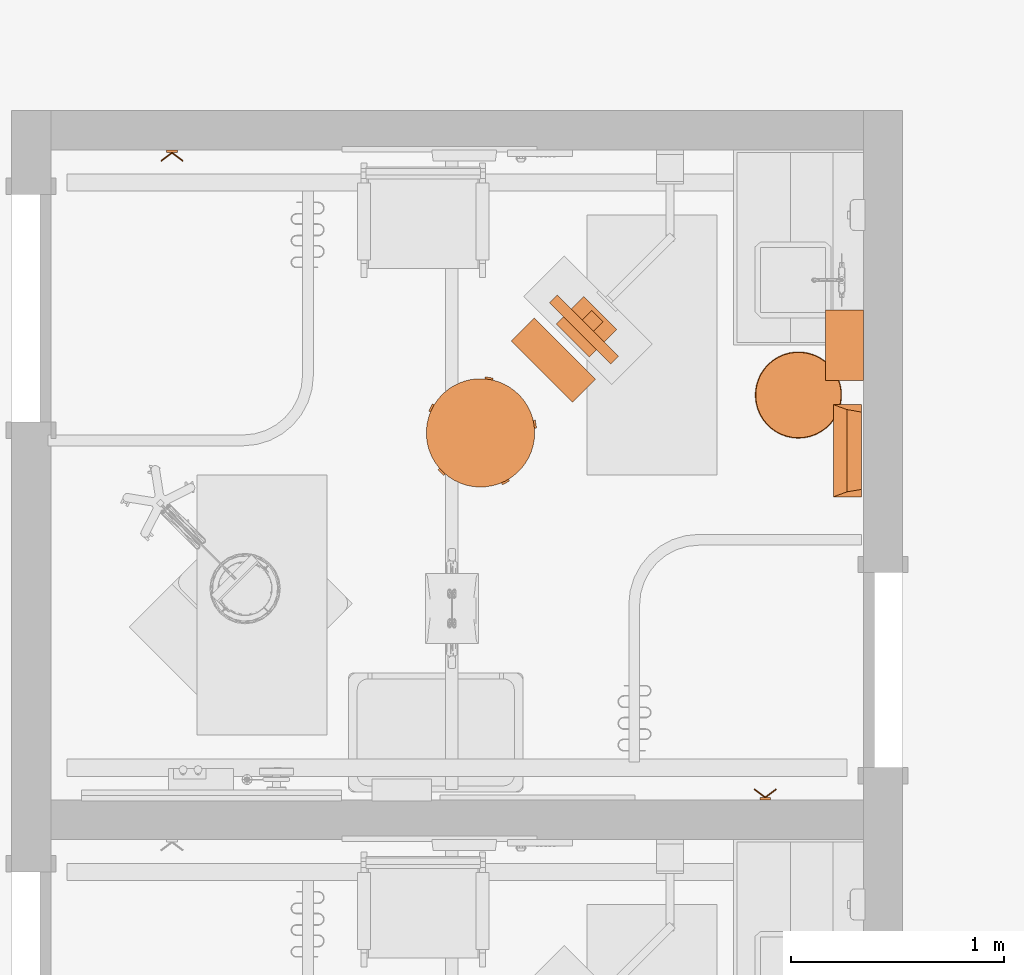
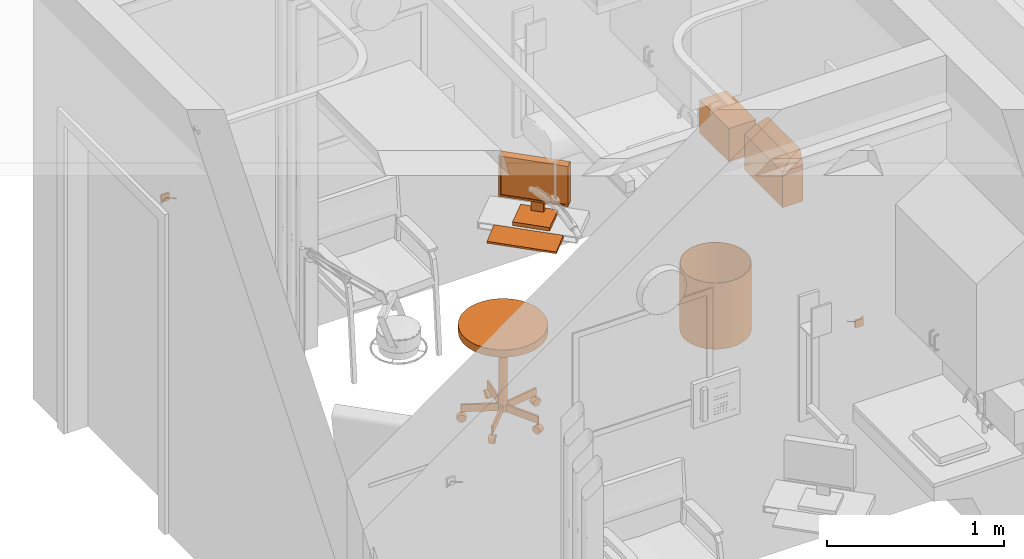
# One storey, part 125 of 142: 7 proxies.
"""IFC2X3 building model written with IfcOpenShell, lengths in feet."""

from ifc_helpers import new_model, entity, si_unit, converted_unit, derived_unit, direction, frame, frame_2d, origin, origin_2d_with_axis, place, context, subcontext, project, spatial, polyline, circle_curve, parameter, trimmed, segment, composite_curve, rectangle, circle, hollow_circle, outline, extrude, faceted_brep, source, transform, mapped, type_object, type_shapes, element, save


model = new_model("IFC2X3")

# Units and contexts
model_context = context("Model", 3, precision=0.0001, world=origin(), true_north=direction((6.12303176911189e-17, 1.0)))
body_context = subcontext(model_context, "Body", "Model", "MODEL_VIEW")
ifc_project = project(units=[converted_unit("LENGTHUNIT", "FOOT", entity("IfcRatioMeasure", 0.3048), si_unit("LENGTHUNIT", "METRE"), dimensions=[1, 0, 0, 0, 0, 0, 0]), converted_unit("AREAUNIT", "SQUARE FOOT", entity("IfcRatioMeasure", 0.09290304), si_unit("AREAUNIT", "SQUARE_METRE"), dimensions=[2, 0, 0, 0, 0, 0, 0]), converted_unit("VOLUMEUNIT", "CUBIC FOOT", entity("IfcRatioMeasure", 0.028316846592), si_unit("VOLUMEUNIT", "CUBIC_METRE"), dimensions=[3, 0, 0, 0, 0, 0, 0]), converted_unit("PLANEANGLEUNIT", "DEGREE", entity("IfcRatioMeasure", 0.0174532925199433), si_unit("PLANEANGLEUNIT", "RADIAN"), dimensions=[0, 0, 0, 0, 0, 0, 0]), si_unit("MASSUNIT", "GRAM", prefix="KILO"), derived_unit("MASSDENSITYUNIT", [(si_unit("MASSUNIT", "GRAM", prefix="KILO"), 1), (si_unit("LENGTHUNIT", "METRE"), -3)]), si_unit("TIMEUNIT", "SECOND"), si_unit("FREQUENCYUNIT", "HERTZ"), si_unit("THERMODYNAMICTEMPERATUREUNIT", "DEGREE_CELSIUS"), derived_unit("THERMALTRANSMITTANCEUNIT", [(si_unit("MASSUNIT", "GRAM", prefix="KILO"), 1), (si_unit("THERMODYNAMICTEMPERATUREUNIT", "KELVIN"), -1), (si_unit("TIMEUNIT", "SECOND"), -3)]), derived_unit("VOLUMETRICFLOWRATEUNIT", [(si_unit("LENGTHUNIT", "METRE"), 3), (si_unit("TIMEUNIT", "SECOND"), -1)]), si_unit("ELECTRICCURRENTUNIT", "AMPERE"), si_unit("ELECTRICVOLTAGEUNIT", "VOLT"), si_unit("POWERUNIT", "WATT"), si_unit("FORCEUNIT", "NEWTON"), si_unit("ILLUMINANCEUNIT", "LUX"), si_unit("LUMINOUSFLUXUNIT", "LUMEN"), si_unit("LUMINOUSINTENSITYUNIT", "CANDELA"), derived_unit("USERDEFINED", [(si_unit("MASSUNIT", "GRAM", prefix="KILO"), -1), (si_unit("LENGTHUNIT", "METRE"), -2), (si_unit("TIMEUNIT", "SECOND"), 3), (si_unit("LUMINOUSFLUXUNIT", "LUMEN"), 1)]), derived_unit("LINEARVELOCITYUNIT", [(si_unit("LENGTHUNIT", "METRE"), 1), (si_unit("TIMEUNIT", "SECOND"), -1)]), si_unit("PRESSUREUNIT", "PASCAL"), derived_unit("USERDEFINED", [(si_unit("LENGTHUNIT", "METRE"), -2), (si_unit("MASSUNIT", "GRAM", prefix="KILO"), 1), (si_unit("TIMEUNIT", "SECOND"), -2)])], contexts=[model_context])

# Site, building, storey, space
site_placement = place(None, origin())
site = spatial("IfcSite", under=ifc_project, at=site_placement, Name="Default", CompositionType="ELEMENT")
building_placement = place(site_placement, origin())
building = spatial("IfcBuilding", under=site, at=building_placement, Name="OUTPATIENT / PACT CLINIC (Ch. 265)", CompositionType="ELEMENT")
storey_placement = place(building_placement, origin())
storey = spatial("IfcBuildingStorey", under=building, at=storey_placement, Name="LEVEL 1", CompositionType="ELEMENT", Elevation=0.0)
space_placement = place(storey_placement, origin())
space = spatial("IfcSpace", under=storey, at=space_placement, Name="EXPA01", CompositionType="ELEMENT", InteriorOrExteriorSpace="INTERNAL")

# Proxies
building_element_proxy_type_1 = type_object("IfcBuildingElementProxyType", Name="F2000 - Basket, Wastepaper", PredefinedType="NOTDEFINED")
shared_shape_1 = source(origin(), body_context, "Body", "SweptSolid", [
    extrude(circle(Radius=0.666666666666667, at=frame_2d((0.0, -1.07702971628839e-15), x_axis=(1.0, 0.0))), origin(), (0.0, 0.0, 1.0), 0.0104166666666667),
    extrude(hollow_circle(Radius=0.666666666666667, WallThickness=0.0104166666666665, at=frame_2d((0.0, -1.07702971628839e-15), x_axis=(1.0, 0.0))), frame((0.0, 0.0, 0.0104166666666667)), (0.0, 0.0, 1.0), 1.48958333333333),
])
type_shapes(building_element_proxy_type_1, [shared_shape_1])
proxy_1_placement = place(space_placement, frame((402.463309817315, -880.189522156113, 0.0), z_axis=(0.0, 0.0, 1.0), x_axis=(0.0, -1.0, 0.0)))
element("IfcBuildingElementProxy", 1, at=proxy_1_placement, inside=space, type_object=building_element_proxy_type_1, Name="F2000 - Basket, Wastepaper:F2000 - Basket, Wastepaper", ObjectType="F2000 - Basket, Wastepaper", context=body_context, shape_type="MappedRepresentation", body=[
    mapped(shared_shape_1, transform((0.0, 0.0, 0.0), scale=1.0)),
])
building_element_proxy_type_2 = type_object("IfcBuildingElementProxyType", Name="A5108 - Waste Disposal Unit, Sharps 17\"x 13\"", PredefinedType="NOTDEFINED")
shared_shape_2 = source(origin(), body_context, "Body", "Brep", [
    faceted_brep([(0.70833333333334, 0.0, 0.0), (-0.708333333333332, 0.0, 0.0), (-0.708333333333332, 0.437500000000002, 0.0), (0.70833333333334, 0.437500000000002, 0.0), (0.70833333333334, 0.437500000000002, 0.810989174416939), (0.70833333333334, 0.0025667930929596, 0.810989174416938), (0.70833333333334, 0.0, 0.808422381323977), (-0.708333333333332, 0.437500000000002, 0.810989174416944), (-0.594042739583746, 0.437500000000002, 1.125), (0.594042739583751, 0.437500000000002, 1.125), (-0.708333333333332, 0.0, 0.808422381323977), (-0.708333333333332, 0.00256679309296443, 0.810989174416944), (0.632497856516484, 0.210923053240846, 1.01934543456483), (-0.632497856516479, 0.210923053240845, 1.01934543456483)], [[[0, 1, 2, 3]], [[0, 3, 4, 5, 6]], [[3, 2, 7, 8, 9, 4]], [[2, 1, 10, 11, 7]], [[1, 0, 6, 10]], [[10, 6, 5, 12, 13, 11]], [[12, 9, 8, 13]], [[5, 4, 9, 12]], [[8, 7, 11, 13]]]),
])
type_shapes(building_element_proxy_type_2, [shared_shape_2])
proxy_2_placement = place(storey_placement, frame((402.999768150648, -881.045519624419, 3.5), z_axis=(0.0, 0.0, 1.0), x_axis=(0.0, -1.0, 0.0)))
element("IfcBuildingElementProxy", 2, at=proxy_2_placement, inside=storey, type_object=building_element_proxy_type_2, Name="A5108 - Waste Disposal Unit, Sharps1:A5108 - Waste Disposal Unit, Sharps 17\"x 13\"", ObjectType="A5108 - Waste Disposal Unit, Sharps 17\"x 13\"", context=body_context, shape_type="MappedRepresentation", body=[
    mapped(shared_shape_2, transform((0.0, 0.0, 0.0), scale=1.0)),
])
building_element_proxy_type_3 = type_object("IfcBuildingElementProxyType", Name="A5080 - Dispenser, Paper Towel", PredefinedType="NOTDEFINED")
shared_shape_3 = source(origin(), body_context, "Body", "SweptSolid", [
    extrude(rectangle(XDim=0.58333333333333, YDim=1.08333333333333, at=frame_2d((9.99200722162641e-16, 0.0), x_axis=(1.0, 0.0))), frame((0.0, -0.291666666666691, 0.0), z_axis=(0.0, 0.0, 1.0), x_axis=(0.0, 1.0, 0.0)), (0.0, 0.0, 1.0), 0.75),
])
type_shapes(building_element_proxy_type_3, [shared_shape_3])
proxy_3_placement = place(space_placement, frame((403.463309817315, -879.420519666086, 3.5), z_axis=(0.0, 0.0, 1.0), x_axis=(0.0, -1.0, 0.0)))
element("IfcBuildingElementProxy", 3, at=proxy_3_placement, inside=space, type_object=building_element_proxy_type_3, Name="A5080 - Dispenser, Paper Towel:A5080 - Dispenser, Paper Towel", ObjectType="A5080 - Dispenser, Paper Towel", context=body_context, shape_type="MappedRepresentation", body=[
    mapped(shared_shape_3, transform((0.0, 0.0, 0.0), scale=1.0)),
])
building_element_proxy_type_4 = type_object("IfcBuildingElementProxyType", Name="M1801 - Computer with Flat Panel Monitor", PredefinedType="NOTDEFINED")
shared_shape_4 = source(origin(), body_context, "Body", "Brep", [
    faceted_brep([(0.666666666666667, -0.5625, 0.0), (0.666666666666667, -0.0624999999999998, 0.0), (0.666666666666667, -0.0624999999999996, 0.0833333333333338), (0.666666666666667, -0.5625, 0.0416666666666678), (-0.666666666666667, -0.5625, 0.0), (-0.666666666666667, -0.5625, 0.0416666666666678), (-0.666666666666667, -0.0624999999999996, 0.0833333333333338), (-0.666666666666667, -0.0624999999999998, 0.0)], [[[0, 1, 2, 3]], [[4, 5, 6, 7]], [[1, 0, 4, 7]], [[2, 1, 7, 6]], [[3, 2, 6, 5]], [[0, 3, 5, 4]]]),
    faceted_brep([(0.666666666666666, 0.437223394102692, 1.41666666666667), (-0.666666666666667, 0.437223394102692, 1.41666666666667), (-0.666666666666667, 0.271109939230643, 1.41666666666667), (0.666666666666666, 0.271109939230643, 1.41666666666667), (0.666666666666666, 0.437223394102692, 0.500000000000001), (0.666666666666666, 0.271109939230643, 0.500000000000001), (-0.666666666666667, 0.271109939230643, 0.500000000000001), (-0.666666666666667, 0.437223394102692, 0.500000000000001), (-0.625, 0.271109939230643, 1.375), (0.625, 0.271109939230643, 1.375), (0.625, 0.271109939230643, 0.541666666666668), (-0.625, 0.271109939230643, 0.541666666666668), (0.625, 0.286812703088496, 1.375), (-0.625, 0.286812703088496, 1.375), (0.625, 0.286812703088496, 0.541666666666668), (-0.625, 0.286812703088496, 0.541666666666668)], [[[0, 1, 2, 3]], [[4, 5, 6, 7]], [[1, 0, 4, 7]], [[2, 1, 7, 6]], [[3, 2, 6, 5], [8, 9, 10, 11]], [[0, 3, 5, 4]], [[12, 9, 8, 13]], [[14, 15, 11, 10]], [[12, 13, 15, 14]], [[13, 8, 11, 15]], [[9, 12, 14, 10]]]),
    faceted_brep([(0.358011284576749, 0.111770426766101, 0.0833333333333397), (0.358011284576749, 0.111770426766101, 0.0), (0.358011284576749, 0.708333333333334, 0.0), (0.358011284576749, 0.708333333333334, 0.0833333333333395), (-0.358011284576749, 0.708333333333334, 0.0833333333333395), (-0.358011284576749, 0.708333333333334, 0.0), (-0.358011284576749, 0.111770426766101, 0.0), (-0.358011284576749, 0.111770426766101, 0.0833333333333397), (0.12128795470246, 0.645556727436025, 0.104166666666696), (0.12128795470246, 0.645556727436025, 0.0833333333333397), (-0.12128795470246, 0.645556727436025, 0.0833333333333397), (-0.12128795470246, 0.645556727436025, 0.104166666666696), (0.12128795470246, 0.645556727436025, 0.958333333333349), (-0.12128795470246, 0.645556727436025, 0.958333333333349), (0.12128795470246, 0.437223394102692, 0.958333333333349), (-0.12128795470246, 0.437223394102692, 0.958333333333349), (0.12128795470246, 0.437223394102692, 0.791666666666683), (-0.12128795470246, 0.437223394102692, 0.791666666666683), (0.12128795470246, 0.562223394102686, 0.791666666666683), (-0.12128795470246, 0.562223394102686, 0.791666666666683), (0.12128795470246, 0.562223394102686, 0.0833333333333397), (-0.12128795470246, 0.562223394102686, 0.0833333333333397)], [[[0, 1, 2, 3]], [[4, 5, 6, 7]], [[8, 9, 10, 11]], [[12, 8, 11, 13]], [[14, 12, 13, 15]], [[16, 14, 15, 17]], [[18, 16, 17, 19]], [[20, 18, 19, 21]], [[0, 3, 4, 7], [9, 20, 21, 10]], [[1, 0, 7, 6]], [[2, 1, 6, 5]], [[3, 2, 5, 4]], [[20, 9, 8, 12, 14, 16, 18]], [[10, 21, 19, 17, 15, 13, 11]]]),
])
type_shapes(building_element_proxy_type_4, [shared_shape_4])
proxy_4_placement = place(space_placement, frame((398.914565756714, -879.429680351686, 2.9791666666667), z_axis=(0.0, 0.0, 1.0), x_axis=(0.707106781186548, -0.707106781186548, 0.0)))
element("IfcBuildingElementProxy", 4, at=proxy_4_placement, inside=space, type_object=building_element_proxy_type_4, Name="M1801 - Computer with Flat Panel Monitor1:M1801 - Computer with Flat Panel Monitor", ObjectType="M1801 - Computer with Flat Panel Monitor", context=body_context, shape_type="MappedRepresentation", body=[
    mapped(shared_shape_4, transform((0.0, 0.0, 0.0), scale=1.0)),
])
building_element_proxy_type_5 = type_object("IfcBuildingElementProxyType", Name="F0340 - Stool, Self Adjusting", PredefinedType="NOTDEFINED")
shared_shape_5 = source(origin(), body_context, "Body", "SweptSolid", [
    extrude(circle(Radius=0.084518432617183, at=frame_2d((0.0, -1.38777878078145e-16), x_axis=(1.0, 0.0))), frame((0.717011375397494, 0.287734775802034, 0.0845184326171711), z_axis=(0.309016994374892, -0.951056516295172, 0.0), x_axis=(-0.951056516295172, -0.309016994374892, 0.0)), (0.0, 0.0, 1.0), 0.104166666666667),
    extrude(outline(composite_curve([segment(polyline([(-0.0925649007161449, 0.0), (0.0925649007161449, 0.0)]), True, "CONTINUOUS"), segment(trimmed(circle_curve(origin_2d_with_axis(), 0.0925649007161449), [parameter(2.03555499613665e-13)], [parameter(180.0)], True, "PARAMETER"), True, "CONTINUOUS")], self_intersect=False)), frame((0.752419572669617, 0.178759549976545, 0.0845184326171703), z_axis=(-0.309016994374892, 0.951056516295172, 0.0), x_axis=(-0.951056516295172, -0.309016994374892, 0.0)), (0.0, 0.0, 1.0), 0.125),
    extrude(circle(Radius=0.0115130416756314, at=frame_2d((7.9106571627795e-18, 1.14165428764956e-16), x_axis=(1.0, 0.0))), frame((0.73310678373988, 0.238198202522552, 0.177083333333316), z_axis=(0.0, 0.0, 1.0), x_axis=(0.309016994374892, -0.951056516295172, 0.0)), (0.0, 0.0, 1.0), 0.0442708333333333),
    extrude(rectangle(XDim=0.0416641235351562, YDim=0.7059128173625, at=frame_2d((1.38777878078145e-17, 0.0), x_axis=(1.0, 0.0))), frame((0.412570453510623, 0.134049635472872, 0.221354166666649), z_axis=(0.0, 0.0, 1.0), x_axis=(-0.309016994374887, 0.951056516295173, 0.0)), (0.0, 0.0, 1.0), 0.166666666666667),
    extrude(circle(Radius=0.084518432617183, at=frame_2d((0.0, -3.7470027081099e-16), x_axis=(1.0, 0.0))), frame((0.410948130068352, -0.654231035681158, 0.0845184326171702), z_axis=(0.809016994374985, 0.587785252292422, 0.0), x_axis=(-0.587785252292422, 0.809016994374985, 0.0)), (0.0, 0.0, 1.0), 0.104166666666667),
    extrude(outline(composite_curve([segment(polyline([(-0.0925649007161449, 0.0), (0.0925649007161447, 0.0)]), True, "CONTINUOUS"), segment(trimmed(circle_curve(origin_2d_with_axis(), 0.0925649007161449), [parameter(2.03555499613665e-13)], [parameter(180.0)], True, "PARAMETER"), True, "CONTINUOUS")], self_intersect=False)), frame((0.402520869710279, -0.660353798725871, 0.0845184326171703), z_axis=(0.809016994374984, 0.587785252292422, 0.0), x_axis=(-0.587785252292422, 0.809016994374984, 0.0)), (0.0, 0.0, 1.0), 0.125),
    extrude(circle(Radius=0.0115130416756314, at=origin_2d_with_axis()), frame((0.453082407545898, -0.623618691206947, 0.177083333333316), z_axis=(0.0, 0.0, 1.0), x_axis=(-0.809016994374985, -0.587785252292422, 0.0)), (0.0, 0.0, 1.0), 0.0442708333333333),
    extrude(rectangle(XDim=0.0416641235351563, YDim=0.705912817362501, at=frame_2d((0.0, -1.38777878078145e-16), x_axis=(1.0, 0.0))), frame((0.254980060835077, -0.350954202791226, 0.221354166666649), z_axis=(0.0, 0.0, 1.0), x_axis=(0.809016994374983, 0.587785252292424, 0.0)), (0.0, 0.0, 1.0), 0.166666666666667),
    extrude(circle(Radius=0.084518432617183, at=frame_2d((-3.2628636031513e-17, -1.38777878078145e-16), x_axis=(1.0, 0.0))), frame((-0.410948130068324, -0.654231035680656, 0.0845184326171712), z_axis=(-0.809016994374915, 0.587785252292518, 0.0), x_axis=(0.587785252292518, 0.809016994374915, 0.0)), (0.0, 0.0, 1.0), 0.104166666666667),
    extrude(outline(composite_curve([segment(trimmed(circle_curve(origin_2d_with_axis(), 0.0925649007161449), [parameter(180.0)], [parameter(360.0)], True, "PARAMETER"), True, "CONTINUOUS"), segment(polyline([(0.0925649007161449, 0.0), (-0.0925649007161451, 0.0)]), True, "CONTINUOUS")], self_intersect=False)), frame((-0.402520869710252, -0.66035379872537, 0.0845184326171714), z_axis=(-0.809016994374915, 0.587785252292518, 0.0), x_axis=(0.587785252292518, 0.809016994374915, 0.0)), (0.0, 0.0, 1.0), 0.125),
    extrude(circle(Radius=0.0115130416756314, at=frame_2d((-4.49094647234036e-17, -3.2628636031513e-17), x_axis=(1.0, 0.0))), frame((-0.453086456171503, -0.623615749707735, 0.177083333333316), z_axis=(0.0, 0.0, 1.0), x_axis=(-0.809016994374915, 0.587785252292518, 0.0)), (0.0, 0.0, 1.0), 0.0442708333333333),
    extrude(rectangle(XDim=0.0416641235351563, YDim=0.7059128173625, at=frame_2d((-4.16333634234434e-17, 5.55111512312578e-17), x_axis=(1.0, 0.0))), frame((-0.254984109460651, -0.350951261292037, 0.221354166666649), z_axis=(0.0, 0.0, 1.0), x_axis=(0.809016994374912, -0.587785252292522, 0.0)), (0.0, 0.0, 1.0), 0.166666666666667),
    extrude(circle(Radius=0.084518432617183, at=frame_2d((0.0, -1.38777878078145e-16), x_axis=(1.0, 0.0))), frame((-0.749200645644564, 0.188666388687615, 0.0845184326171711), z_axis=(0.309016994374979, 0.951056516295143, 0.0), x_axis=(0.951056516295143, -0.309016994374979, 0.0)), (0.0, 0.0, 1.0), 0.104166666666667),
    extrude(outline(composite_curve([segment(trimmed(circle_curve(origin_2d_with_axis(), 0.0925649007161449), [parameter(180.0)], [parameter(360.0)], True, "PARAMETER"), True, "CONTINUOUS"), segment(polyline([(0.0925649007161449, 0.0), (-0.0925649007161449, 0.0)]), True, "CONTINUOUS")], self_intersect=False)), frame((-0.752419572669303, 0.178759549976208, 0.0845184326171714), z_axis=(0.309016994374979, 0.951056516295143, 0.0), x_axis=(0.951056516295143, -0.309016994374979, 0.0)), (0.0, 0.0, 1.0), 0.125),
    extrude(circle(Radius=0.0115130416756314, at=frame_2d((7.91065716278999e-18, -1.14165428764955e-16), x_axis=(1.0, 0.0))), frame((-0.733105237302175, 0.238202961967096, 0.177083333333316), z_axis=(0.0, 0.0, 1.0), x_axis=(0.309016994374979, 0.951056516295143, 0.0)), (0.0, 0.0, 1.0), 0.0442708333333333),
    extrude(rectangle(XDim=0.0416641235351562, YDim=0.7059128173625, at=origin_2d_with_axis()), frame((-0.412568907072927, 0.134054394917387, 0.221354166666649), z_axis=(0.0, 0.0, 1.0), x_axis=(-0.309016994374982, -0.951056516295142, 0.0)), (0.0, 0.0, 1.0), 0.166666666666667),
    extrude(circle(Radius=0.084518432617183, at=frame_2d((-1.76415182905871e-31, -1.38777878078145e-16), x_axis=(1.0, 0.0))), frame((-0.0520833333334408, 0.770833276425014, 0.0845184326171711), z_axis=(1.0, 0.0, 0.0), x_axis=(0.0, -1.0, 0.0)), (0.0, 0.0, 1.0), 0.104166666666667),
    extrude(outline(composite_curve([segment(trimmed(circle_curve(origin_2d_with_axis(), 0.0925649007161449), [parameter(180.0)], [parameter(360.0)], True, "PARAMETER"), True, "CONTINUOUS"), segment(polyline([(0.0925649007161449, 0.0), (-0.0925649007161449, 0.0)]), True, "CONTINUOUS")], self_intersect=False)), frame((-0.0625000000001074, 0.770833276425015, 0.0845184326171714), z_axis=(1.0, 0.0, 0.0), x_axis=(0.0, -1.0, 0.0)), (0.0, 0.0, 1.0), 0.125),
    extrude(circle(Radius=0.0115130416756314, at=frame_2d((7.04731412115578e-19, 1.79171670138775e-32), x_axis=(1.0, 0.0))), frame((2.50218814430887e-06, 0.770833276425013, 0.177083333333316)), (0.0, 0.0, 1.0), 0.0442708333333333),
    extrude(rectangle(XDim=0.0416641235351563, YDim=0.7059128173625, at=frame_2d((3.46944695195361e-18, 5.55111512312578e-17), x_axis=(1.0, 0.0))), frame((2.50218813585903e-06, 0.433801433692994, 0.221354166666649), z_axis=(0.0, 0.0, 1.0), x_axis=(-1.0, 0.0, 0.0)), (0.0, 0.0, 1.0), 0.166666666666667),
    extrude(circle(Radius=0.0834863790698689, at=frame_2d((2.89333175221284e-18, -1.34875966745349e-16), x_axis=(1.0, 0.0))), frame((0.0, 0.0, 0.221354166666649)), (0.0, 0.0, 1.0), 1.77864583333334),
    extrude(circle(Radius=0.833333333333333, at=frame_2d((2.28760446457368e-17, -1.34628714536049e-15), x_axis=(1.0, 0.0))), frame((0.0, 0.0, 2.0)), (0.0, 0.0, 1.0), 0.166666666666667),
])
type_shapes(building_element_proxy_type_5, [shared_shape_5])
proxy_5_placement = place(space_placement, frame((397.573053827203, -880.771192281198, 0.0), z_axis=(0.0, 0.0, 1.0), x_axis=(-0.707106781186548, 0.707106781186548, 0.0)))
element("IfcBuildingElementProxy", 5, at=proxy_5_placement, inside=space, type_object=building_element_proxy_type_5, Name="F0340 - Stool, Self Adjusting:F0340 - Stool, Self Adjusting", ObjectType="F0340 - Stool, Self Adjusting", context=body_context, shape_type="MappedRepresentation", body=[
    mapped(shared_shape_5, transform((0.0, 0.0, 0.0), scale=1.0)),
])
building_element_proxy_type_6 = type_object("IfcBuildingElementProxyType", Name="A5145 - Hook, Garment, Double", PredefinedType="NOTDEFINED")
shared_shape_6 = source(origin(), body_context, "Body", "SweptSolid", [
    extrude(circle(Radius=0.0105952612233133, at=frame_2d((-1.64551454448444e-31, -4.16333634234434e-17), x_axis=(1.0, 0.0))), frame((-0.169086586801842, -0.168481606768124, 0.0833333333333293), z_axis=(0.799999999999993, 0.60000000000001, 0.0), x_axis=(0.60000000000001, -0.799999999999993, 0.0)), (0.0, 0.0, 1.0), 0.211358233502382),
    extrude(circle(Radius=0.0105952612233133, at=frame_2d((5.2041704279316e-19, 2.77555756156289e-17), x_axis=(1.0, 0.0))), frame((0.0, -0.0416666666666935, 0.083333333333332), z_axis=(0.799999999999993, -0.60000000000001, 0.0), x_axis=(-0.60000000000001, -0.799999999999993, 0.0)), (0.0, 0.0, 1.0), 0.211358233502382),
    extrude(rectangle(XDim=0.0416666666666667, YDim=0.166666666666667, at=origin_2d_with_axis()), frame((0.0, -0.0208333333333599, 0.0), z_axis=(0.0, 0.0, 1.0), x_axis=(0.0, 1.0, 0.0)), (0.0, 0.0, 1.0), 0.166666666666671),
])
type_shapes(building_element_proxy_type_6, [shared_shape_6])
proxy_6_placement = place(space_placement, frame((401.952893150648, -886.420519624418, 4.0), z_axis=(0.0, 0.0, 1.0), x_axis=(-1.0, 0.0, 0.0)))
element("IfcBuildingElementProxy", 6, at=proxy_6_placement, inside=space, type_object=building_element_proxy_type_6, Name="A5145 - Hook, Garment, Double:A5145 - Hook, Garment, Double", ObjectType="A5145 - Hook, Garment, Double", context=body_context, shape_type="MappedRepresentation", body=[
    mapped(shared_shape_6, transform((0.0, 0.0, 0.0), scale=1.0)),
])
proxy_7_placement = place(space_placement, frame((392.827893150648, -876.420519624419, 4.0)))
element("IfcBuildingElementProxy", 7, at=proxy_7_placement, inside=space, type_object=building_element_proxy_type_6, Name="A5145 - Hook, Garment, Double:A5145 - Hook, Garment, Double", ObjectType="A5145 - Hook, Garment, Double", context=body_context, shape_type="MappedRepresentation", body=[
    mapped(shared_shape_6, transform((0.0, 0.0, 0.0), scale=1.0)),
])

save(model, "model.ifc")
